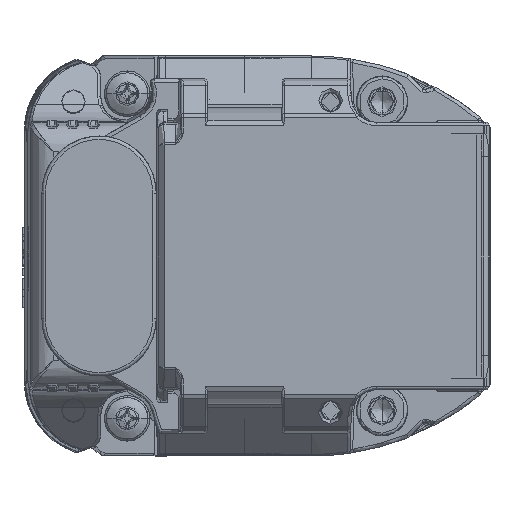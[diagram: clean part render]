
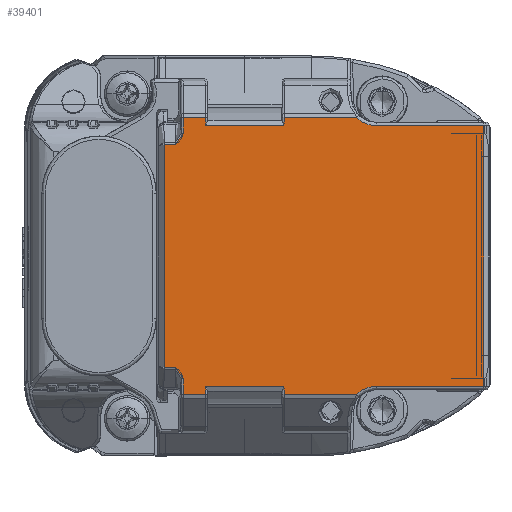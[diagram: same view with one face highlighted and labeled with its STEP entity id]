
A CAD part, front view. The second image highlights one B-rep face of the part: STEP entity #39401.
In plain terms, the highlighted planar face has unit normal (0, -1, 0).
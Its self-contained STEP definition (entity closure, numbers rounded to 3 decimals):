
#28761=DIRECTION('',(1.,0.,0.));
#28762=VECTOR('',#28761,9.4);
#28763=CARTESIAN_POINT('',(30.8,-1578.1,-6.1));
#28764=LINE('',#28763,#28762);
#29873=DIRECTION('',(-1.,0.,0.));
#29874=VECTOR('',#29873,9.4);
#29875=CARTESIAN_POINT('',(40.2,-1578.1,-28.9));
#29876=LINE('',#29875,#29874);
#30020=DIRECTION('',(0.,0.,-1.));
#30021=VECTOR('',#30020,22.8);
#30022=CARTESIAN_POINT('',(40.2,-1578.1,-6.1));
#30023=LINE('',#30022,#30021);
#30027=CARTESIAN_POINT('',(30.8,-1578.1,-31.4));
#30028=DIRECTION('',(0.,-1.,0.));
#30029=DIRECTION('',(0.,0.,1.));
#30030=AXIS2_PLACEMENT_3D('',#30027,#30028,#30029);
#30035=CARTESIAN_POINT('',(13.915,-1578.1,-28.251));
#30036=CARTESIAN_POINT('',(13.915,-1578.1,-27.714));
#30037=CARTESIAN_POINT('',(13.599,-1578.1,-27.267));
#30038=CARTESIAN_POINT('',(13.219,-1578.1,-27.267));
#30043=CARTESIAN_POINT('',(13.219,-1578.1,-7.733));
#30044=CARTESIAN_POINT('',(13.599,-1578.1,-7.733));
#30045=CARTESIAN_POINT('',(13.915,-1578.1,-7.286));
#30046=CARTESIAN_POINT('',(13.915,-1578.1,-6.749));
#30051=CARTESIAN_POINT('',(30.8,-1578.1,-3.6));
#30052=DIRECTION('',(0.,-1.,0.));
#30053=DIRECTION('',(-0.691,0.,-0.723));
#30054=AXIS2_PLACEMENT_3D('',#30051,#30052,#30053);
#30074=DIRECTION('',(-1.,0.,0.));
#30075=VECTOR('',#30074,6.338);
#30076=CARTESIAN_POINT('',(29.072,-1578.1,-29.593));
#30077=LINE('',#30076,#30075);
#30320=DIRECTION('',(-0.017,0.,1.));
#30321=VECTOR('',#30320,0.643);
#30322=CARTESIAN_POINT('',(22.734,-1578.1,-29.593));
#30323=LINE('',#30322,#30321);
#30342=DIRECTION('',(-1.,0.,0.));
#30343=VECTOR('',#30342,6.846);
#30344=CARTESIAN_POINT('',(22.723,-1578.1,-28.95));
#30345=LINE('',#30344,#30343);
#32831=DIRECTION('',(1.,0.,0.));
#32832=VECTOR('',#32831,6.338);
#32833=CARTESIAN_POINT('',(22.734,-1578.1,-5.407));
#32834=LINE('',#32833,#32832);
#32915=DIRECTION('',(1.,0.,0.));
#32916=VECTOR('',#32915,6.846);
#32917=CARTESIAN_POINT('',(15.877,-1578.1,-6.05));
#32918=LINE('',#32917,#32916);
#32930=DIRECTION('',(0.017,0.,1.));
#32931=VECTOR('',#32930,0.643);
#32932=CARTESIAN_POINT('',(22.723,-1578.1,-6.05));
#32933=LINE('',#32932,#32931);
#32970=DIRECTION('',(0.017,0.,-1.));
#32971=VECTOR('',#32970,0.643);
#32972=CARTESIAN_POINT('',(15.866,-1578.1,-5.407));
#32973=LINE('',#32972,#32971);
#33172=DIRECTION('',(1.,0.,0.));
#33173=VECTOR('',#33172,1.951);
#33174=CARTESIAN_POINT('',(13.915,-1578.1,-5.407));
#33175=LINE('',#33174,#33173);
#33210=DIRECTION('',(0.,0.,1.));
#33211=VECTOR('',#33210,1.342);
#33212=CARTESIAN_POINT('',(13.915,-1578.1,-6.749));
#33213=LINE('',#33212,#33211);
#33240=DIRECTION('',(1.,0.,0.));
#33241=VECTOR('',#33240,0.989);
#33242=CARTESIAN_POINT('',(12.23,-1578.1,-7.733));
#33243=LINE('',#33242,#33241);
#33775=DIRECTION('',(-1.,0.,0.));
#33776=VECTOR('',#33775,0.989);
#33777=CARTESIAN_POINT('',(13.219,-1578.1,-27.267));
#33778=LINE('',#33777,#33776);
#33812=DIRECTION('',(0.,0.,1.));
#33813=VECTOR('',#33812,1.342);
#33814=CARTESIAN_POINT('',(13.915,-1578.1,-29.593));
#33815=LINE('',#33814,#33813);
#34018=DIRECTION('',(-1.,0.,0.));
#34019=VECTOR('',#34018,1.951);
#34020=CARTESIAN_POINT('',(15.866,-1578.1,-29.593));
#34021=LINE('',#34020,#34019);
#34048=DIRECTION('',(-0.017,0.,
-1.));
#34049=VECTOR('',#34048,0.643);
#34050=CARTESIAN_POINT('',(15.877,-1578.1,-28.95));
#34051=LINE('',#34050,#34049);
#34113=DIRECTION('',(0.,0.,1.));
#34114=VECTOR('',#34113,19.534);
#34115=CARTESIAN_POINT('',(12.23,-1578.1,-27.267));
#34116=LINE('',#34115,#34114);
#36254=CARTESIAN_POINT('',(12.23,-1578.1,-7.733));
#36256=VERTEX_POINT('',#36254);
#36589=CARTESIAN_POINT('',(13.915,-1578.1,-29.593));
#36590=VERTEX_POINT('',#36589);
#36617=CARTESIAN_POINT('',(13.915,-1578.1,-5.407));
#36619=VERTEX_POINT('',#36617);
#36621=CARTESIAN_POINT('',(13.219,-1578.1,-7.733));
#36623=VERTEX_POINT('',#36621);
#36625=CARTESIAN_POINT('',(13.915,-1578.1,-6.749));
#36626=VERTEX_POINT('',#36625);
#36627=CARTESIAN_POINT('',(40.2,-1578.1,-6.1));
#36628=CARTESIAN_POINT('',(40.2,-1578.1,-28.9));
#36629=VERTEX_POINT('',#36627);
#36630=VERTEX_POINT('',#36628);
#36631=CARTESIAN_POINT('',(30.8,-1578.1,-28.9));
#36632=VERTEX_POINT('',#36631);
#36633=CARTESIAN_POINT('',(29.072,-1578.1,-29.593));
#36634=VERTEX_POINT('',#36633);
#36635=CARTESIAN_POINT('',(22.734,-1578.1,-29.593));
#36636=VERTEX_POINT('',#36635);
#36637=CARTESIAN_POINT('',(22.723,-1578.1,-28.95));
#36638=VERTEX_POINT('',#36637);
#36639=CARTESIAN_POINT('',(15.877,-1578.1,-28.95));
#36640=VERTEX_POINT('',#36639);
#36641=CARTESIAN_POINT('',(15.866,-1578.1,-29.593));
#36642=VERTEX_POINT('',#36641);
#36643=CARTESIAN_POINT('',(13.915,-1578.1,-28.251));
#36644=VERTEX_POINT('',#36643);
#36645=VERTEX_POINT('',#30038);
#36646=CARTESIAN_POINT('',(12.23,-1578.1,-27.267));
#36647=VERTEX_POINT('',#36646);
#36648=CARTESIAN_POINT('',(15.866,-1578.1,-5.407));
#36649=VERTEX_POINT('',#36648);
#36650=CARTESIAN_POINT('',(15.877,-1578.1,-6.05));
#36651=VERTEX_POINT('',#36650);
#36652=CARTESIAN_POINT('',(22.723,-1578.1,-6.05));
#36653=VERTEX_POINT('',#36652);
#36654=CARTESIAN_POINT('',(22.734,-1578.1,-5.407));
#36655=VERTEX_POINT('',#36654);
#36656=CARTESIAN_POINT('',(29.072,-1578.1,-5.407));
#36657=VERTEX_POINT('',#36656);
#36658=CARTESIAN_POINT('',(30.8,-1578.1,-6.1));
#36659=VERTEX_POINT('',#36658);
#39355=CARTESIAN_POINT('',(26.215,-1578.1,-17.5));
#39356=DIRECTION('',(0.,1.,0.));
#39357=DIRECTION('',(0.,0.,1.));
#39358=AXIS2_PLACEMENT_3D('',#39355,#39356,#39357);
#39359=PLANE('',#39358);
#39360=ORIENTED_EDGE('',*,*,#39349,.T.);
#39361=ORIENTED_EDGE('',*,*,#39234,.T.);
#39362=ORIENTED_EDGE('',*,*,#39219,.T.);
#39364=ORIENTED_EDGE('',*,*,#39363,.T.);
#39366=ORIENTED_EDGE('',*,*,#39365,.T.);
#39368=ORIENTED_EDGE('',*,*,#39367,.T.);
#39370=ORIENTED_EDGE('',*,*,#39369,.T.);
#39372=ORIENTED_EDGE('',*,*,#39371,.T.);
#39374=ORIENTED_EDGE('',*,*,#39373,.T.);
#39376=ORIENTED_EDGE('',*,*,#39375,.T.);
#39378=ORIENTED_EDGE('',*,*,#39377,.T.);
#39380=ORIENTED_EDGE('',*,*,#39379,.T.);
#39382=ORIENTED_EDGE('',*,*,#39381,.T.);
#39384=ORIENTED_EDGE('',*,*,#39383,.T.);
#39386=ORIENTED_EDGE('',*,*,#39385,.T.);
#39388=ORIENTED_EDGE('',*,*,#39387,.T.);
#39390=ORIENTED_EDGE('',*,*,#39389,.T.);
#39392=ORIENTED_EDGE('',*,*,#39391,.T.);
#39394=ORIENTED_EDGE('',*,*,#39393,.T.);
#39396=ORIENTED_EDGE('',*,*,#39395,.T.);
#39397=ORIENTED_EDGE('',*,*,#38316,.T.);
#39398=ORIENTED_EDGE('',*,*,#38330,.T.);
#39399=EDGE_LOOP('',(#39360,#39361,#39362,#39364,#39366,#39368,#39370,#39372,
#39374,#39376,#39378,#39380,#39382,#39384,#39386,#39388,#39390,#39392,#39394,
#39396,#39397,#39398));
#39400=FACE_OUTER_BOUND('',#39399,.F.);
#39401=ADVANCED_FACE('',(#39400),#39359,.F.);
#30031=CIRCLE('',#30030,2.5);
#30039=B_SPLINE_CURVE_WITH_KNOTS('',3,(#30035,#30036,#30037,#30038),
.UNSPECIFIED.,.F.,.F.,(4,4),(0.,1.),.UNSPECIFIED.);
#30047=B_SPLINE_CURVE_WITH_KNOTS('',3,(#30043,#30044,#30045,#30046),
.UNSPECIFIED.,.F.,.F.,(4,4),(0.,1.),.UNSPECIFIED.);
#30055=CIRCLE('',#30054,2.5);
#38316=EDGE_CURVE('',#36657,#36659,#30055,.T.);
#38330=EDGE_CURVE('',#36659,#36629,#28764,.T.);
#39219=EDGE_CURVE('',#36632,#36634,#30031,.T.);
#39234=EDGE_CURVE('',#36630,#36632,#29876,.T.);
#39349=EDGE_CURVE('',#36629,#36630,#30023,.T.);
#39363=EDGE_CURVE('',#36634,#36636,#30077,.T.);
#39365=EDGE_CURVE('',#36636,#36638,#30323,.T.);
#39367=EDGE_CURVE('',#36638,#36640,#30345,.T.);
#39369=EDGE_CURVE('',#36640,#36642,#34051,.T.);
#39371=EDGE_CURVE('',#36642,#36590,#34021,.T.);
#39373=EDGE_CURVE('',#36590,#36644,#33815,.T.);
#39375=EDGE_CURVE('',#36644,#36645,#30039,.T.);
#39377=EDGE_CURVE('',#36645,#36647,#33778,.T.);
#39379=EDGE_CURVE('',#36647,#36256,#34116,.T.);
#39381=EDGE_CURVE('',#36256,#36623,#33243,.T.);
#39383=EDGE_CURVE('',#36623,#36626,#30047,.T.);
#39385=EDGE_CURVE('',#36626,#36619,#33213,.T.);
#39387=EDGE_CURVE('',#36619,#36649,#33175,.T.);
#39389=EDGE_CURVE('',#36649,#36651,#32973,.T.);
#39391=EDGE_CURVE('',#36651,#36653,#32918,.T.);
#39393=EDGE_CURVE('',#36653,#36655,#32933,.T.);
#39395=EDGE_CURVE('',#36655,#36657,#32834,.T.);
